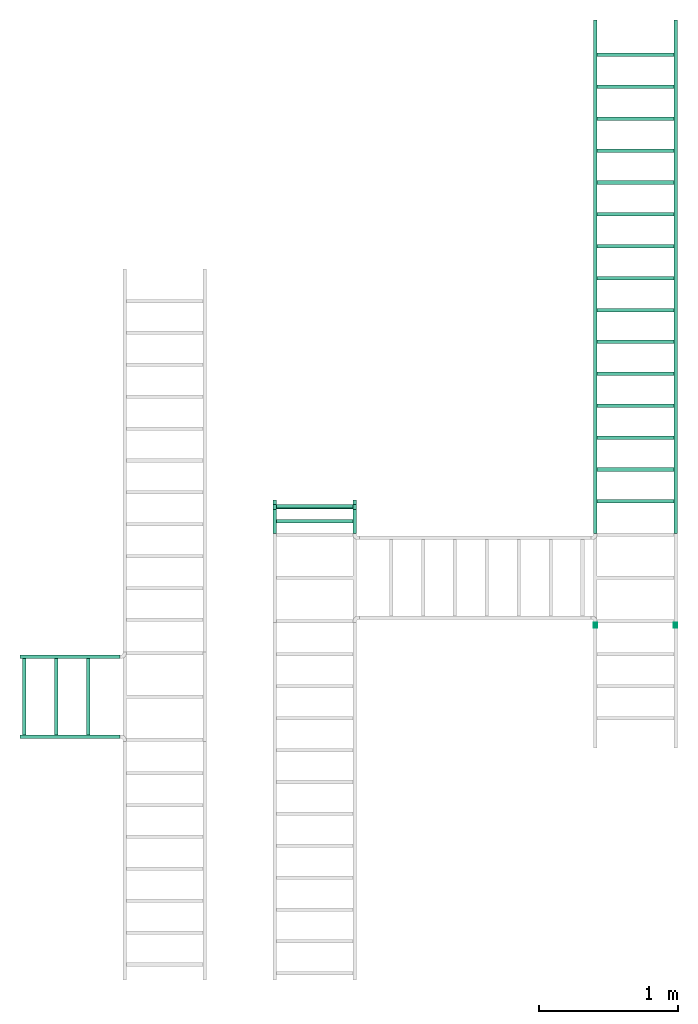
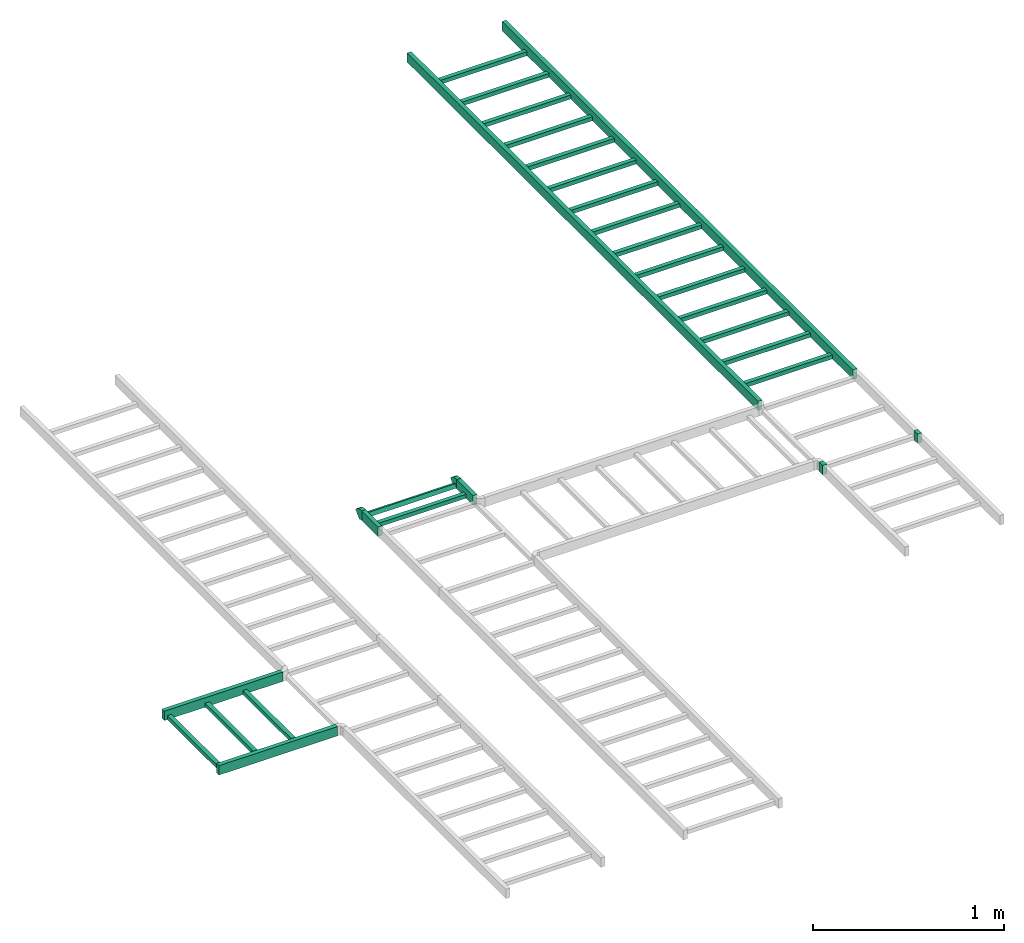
# One storey, part 3 of 3: 4 flow segments, 1 flow fitting.
"""IFC2X3 building model written with IfcOpenShell, lengths in millimetres."""

from ifc_helpers import new_model, entity, si_unit, converted_unit, derived_unit, direction, frame, origin_with_axes, place, context, subcontext, project, spatial, open_shell, faceted_brep, surface_model, source, transform, mapped, type_object, element, save


model = new_model("IFC2X3")

# Units and contexts
model_context = context("Model", 3, precision=0.01, world=frame((0.0, 4.29681676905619e-09, 0.0)), true_north=direction((4.01073788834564e-13, 1.0)))
plan_context = context("Plan", 3, precision=0.01, world=frame((0.0, 4.29681676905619e-09, 0.0)), true_north=direction((4.01073788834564e-13, 1.0)))
body_context = subcontext(model_context, "Body", "Model", "MODEL_VIEW")
ifc_project = project(units=[converted_unit("PLANEANGLEUNIT", "DEGREE", entity("IfcPositiveLengthMeasure", 0.0174532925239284), si_unit("PLANEANGLEUNIT", "RADIAN"), dimensions=[0, 0, 0, 0, 0, 0, 0]), si_unit("AREAUNIT", "SQUARE_METRE"), si_unit("LENGTHUNIT", "METRE", prefix="MILLI"), si_unit("MASSUNIT", "GRAM", prefix="KILO"), si_unit("POWERUNIT", "WATT"), si_unit("PRESSUREUNIT", "PASCAL", prefix="KILO"), si_unit("FORCEUNIT", "NEWTON", prefix="KILO"), si_unit("ELECTRICVOLTAGEUNIT", "VOLT"), si_unit("ELECTRICCURRENTUNIT", "AMPERE"), si_unit("THERMODYNAMICTEMPERATUREUNIT", "DEGREE_CELSIUS"), si_unit("TIMEUNIT", "SECOND"), si_unit("VOLUMEUNIT", "CUBIC_METRE"), derived_unit("LINEARVELOCITYUNIT", [(si_unit("LENGTHUNIT", "METRE"), 1), (si_unit("TIMEUNIT", "SECOND"), -1)]), derived_unit("VOLUMETRICFLOWRATEUNIT", [(si_unit("VOLUMEUNIT", "CUBIC_METRE"), 1), (si_unit("TIMEUNIT", "SECOND"), -1)]), derived_unit("THERMALTRANSMITTANCEUNIT", [(si_unit("POWERUNIT", "WATT"), 1), (si_unit("THERMODYNAMICTEMPERATUREUNIT", "KELVIN"), -1), (si_unit("AREAUNIT", "SQUARE_METRE"), -1)]), derived_unit("SOUNDPRESSUREUNIT", [(si_unit("PRESSUREUNIT", "PASCAL"), 1)])], contexts=[model_context, plan_context])

# Site, building, storey
site_placement = place(None, frame((0.0, -4.29681676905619e-09, 0.0), z_axis=(0.0, 0.0, 1.0), x_axis=(1.0, 0.0, 0.0)))
site = spatial("IfcSite", under=ifc_project, at=site_placement, Name="ENGM", CompositionType="ELEMENT")
building_placement = place(site_placement, frame((0.0, 4.29681676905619e-09, 0.0), z_axis=(0.0, 0.0, 1.0), x_axis=(1.0, 0.0, 0.0)))
building = spatial("IfcBuilding", under=site, at=building_placement, Name="TS", CompositionType="ELEMENT")
storey_placement = place(building_placement, frame((0.0, 0.0, 200300.0), z_axis=(0.0, 0.0, 1.0), x_axis=(1.0, 0.0, 0.0)))
storey = spatial("IfcBuildingStorey", under=building, at=storey_placement, Name="Nivå C", CompositionType="ELEMENT", Elevation=200300.0)

# Flow fitting
cable_carrier_fitting_type = type_object("IfcCableCarrierFittingType", Name="Standard 10mm", PredefinedType="BEND")
shared_shape_1 = source(origin_with_axes(), body_context, "Body", "SurfaceModel", [
    surface_model("IfcShellBasedSurfaceModel", [(-9.49747, 32.92893, 274.60001), (32.92893, -9.49747, 274.60001), (10.2193, -24.67157, 274.60001), (-12.74171, 30.7612, 274.60001), (10.2193, -24.67157, 300.0), (32.92893, -9.49747, 300.0), (-9.49747, 32.92893, 300.0), (-12.74171, 30.7612, 300.0), (-9.49747, 32.92893, -300.0), (32.92893, -9.49747, -300.0), (10.2193, -24.67157, -300.0), (-12.74171, 30.7612, -300.0), (10.2193, -24.67157, -274.60001), (32.92893, -9.49747, -274.60001), (-9.49747, 32.92893, -274.60001), (-12.74171, 30.7612, -274.60001), (-16.56854, 30.0, 274.60001), (-16.56854, 30.0, 300.0), (-16.56854, -30.0, 274.60001), (-3.17462, -27.33578, 300.0), (-16.56854, -30.0, 300.0), (-3.17462, -27.33578, 274.60001), (18.41816, -19.19326, 274.60001), (21.57411, -17.08452, 300.0), (-16.56854, 30.0, -274.60001), (-16.56854, 30.0, -300.0), (0.54808, -26.59529, -300.0), (-16.56854, -30.0, -300.0), (-3.17462, -27.33578, -274.60001), (-16.56854, -30.0, -274.60001), (21.57411, -17.08452, -274.60001), (21.57411, -17.08452, -300.0), (-1.00844, 35.62128, 274.60001), (8.71172, 12.15474, -274.60001), (-1.00844, 35.62128, -274.60001), (8.71172, 12.15474, 274.60001), (-14.75482, 2.43458, 274.60001), (-14.75482, 2.43458, -274.60001), (-24.47498, 25.90113, -274.60001), (-24.47498, 25.90113, 274.60001), (-26.56854, 30.0, 300.0), (-26.56854, 30.0, 274.60001), (-26.56854, -30.0, 274.60001), (-26.56854, -30.0, 300.0), (-26.56854, 30.0, -274.60001), (-26.56854, 30.0, -300.0), (-26.56854, -30.0, -300.0), (-26.56854, -30.0, -274.60001), (-2.42641, 40.0, 274.60001), (40.0, -2.42641, 274.60001), (-2.42641, 40.0, 300.0), (40.0, -2.42641, 300.0), (-2.42641, 40.0, -300.0), (40.0, -2.42641, -300.0), (-2.42641, 40.0, -274.60001), (40.0, -2.42641, -274.60001)], [open_shell([[[0, 1, 2]], [[0, 2, 3]], [[4, 5, 6]], [[4, 6, 7]], [[8, 9, 10]], [[8, 10, 11]], [[12, 13, 14]], [[12, 14, 15]], [[7, 16, 17]], [[3, 16, 7]], [[6, 0, 3]], [[7, 6, 3]], [[18, 19, 20]], [[21, 4, 19]], [[4, 21, 2]], [[4, 22, 23]], [[1, 5, 23]], [[22, 4, 2]], [[1, 23, 22]], [[18, 21, 19]], [[24, 11, 25]], [[15, 11, 24]], [[14, 8, 15]], [[11, 15, 8]], [[12, 26, 10]], [[27, 26, 28]], [[29, 27, 28]], [[26, 12, 28]], [[30, 12, 31]], [[9, 13, 30]], [[9, 30, 31]], [[12, 10, 31]], [[32, 33, 34]], [[33, 32, 35]], [[33, 35, 36]], [[36, 37, 33]], [[34, 33, 37]], [[37, 38, 34]], [[32, 34, 38]], [[38, 39, 32]], [[35, 32, 39]], [[39, 36, 35]], [[38, 37, 36]], [[36, 39, 38]], [[40, 41, 42]], [[42, 43, 40]], [[44, 45, 46]], [[46, 47, 44]], [[41, 40, 16]], [[17, 16, 40]], [[41, 18, 42]], [[18, 41, 16]], [[18, 16, 3]], [[3, 2, 18]], [[0, 48, 1]], [[1, 48, 49]], [[43, 42, 18]], [[18, 20, 43]], [[43, 20, 40]], [[17, 40, 20]], [[7, 17, 20]], [[20, 4, 7]], [[5, 50, 6]], [[50, 5, 51]], [[45, 44, 25]], [[24, 25, 44]], [[45, 27, 46]], [[27, 45, 25]], [[27, 25, 11]], [[11, 10, 27]], [[8, 52, 9]], [[9, 52, 53]], [[47, 46, 27]], [[27, 29, 47]], [[47, 29, 44]], [[24, 44, 29]], [[15, 24, 29]], [[29, 12, 15]], [[13, 54, 14]], [[54, 13, 55]], [[49, 48, 50]], [[50, 51, 49]], [[53, 52, 54]], [[54, 55, 53]], [[0, 6, 48]], [[50, 48, 6]], [[5, 1, 49]], [[49, 51, 5]], [[8, 14, 52]], [[54, 52, 14]], [[13, 9, 53]], [[53, 55, 13]]])]),
])
flow_fitting_placement = place(storey_placement, frame((597037.74959, 401862.88308, 2730.0), z_axis=(1.0, 0.0, 0.0), x_axis=(0.0, -0.707106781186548, 0.707106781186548)))
element("IfcFlowFitting", 1, at=flow_fitting_placement, inside=storey, type_object=cable_carrier_fitting_type, Name="Standard 10mm", context=body_context, shape_type="MappedRepresentation", body=[
    mapped(shared_shape_1, transform((0.0, 0.0, 0.0), scale=1.0)),
])

# Flow segments
cable_carrier_segment_type = type_object("IfcCableCarrierSegmentType", Name="Kabelbro", PredefinedType="CABLELADDERSEGMENT")
shared_shape_2 = source(origin_with_axes(), body_context, "Body", "SurfaceModel", [
    surface_model("IfcShellBasedSurfaceModel", [(0.0, -300.0, -30.0), (0.0, -300.0, 30.0), (0.0, -274.60001, 30.0), (0.0, -274.60001, -30.0), (0.0, 274.60001, -30.0), (0.0, 274.60001, 30.0), (0.0, 300.0, 30.0), (0.0, 300.0, -30.0), (215.89999, -274.60001, -30.0), (241.30001, -274.60001, -30.0), (241.30001, -274.60001, -4.6), (215.89999, -274.60001, -4.6), (241.30001, 274.60001, -4.6), (241.30001, 274.60001, -30.0), (215.89999, 274.60001, -30.0), (215.89999, 274.60001, -4.6), (444.50001, -274.60001, -30.0), (469.89999, -274.60001, -30.0), (469.89999, -274.60001, -4.6), (444.50001, -274.60001, -4.6), (469.89999, 274.60001, -4.6), (469.89999, 274.60001, -30.0), (444.50001, 274.60001, -30.0), (444.50001, 274.60001, -4.6), (673.09998, -274.60001, -30.0), (698.50002, -274.60001, -30.0), (698.50002, -274.60001, -4.6), (673.09998, -274.60001, -4.6), (698.50002, 274.60001, -4.6), (698.50002, 274.60001, -30.0), (673.09998, 274.60001, -30.0), (673.09998, 274.60001, -4.6), (901.69998, -274.60001, -30.0), (927.10002, -274.60001, -30.0), (927.10002, -274.60001, -4.6), (901.69998, -274.60001, -4.6), (927.10002, 274.60001, -4.6), (927.10002, 274.60001, -30.0), (901.69998, 274.60001, -30.0), (901.69998, 274.60001, -4.6), (1130.29998, -274.60001, -30.0), (1155.70002, -274.60001, -30.0), (1155.70002, -274.60001, -4.6), (1130.29998, -274.60001, -4.6), (1155.70002, 274.60001, -4.6), (1155.70002, 274.60001, -30.0), (1130.29998, 274.60001, -30.0), (1130.29998, 274.60001, -4.6), (1358.90005, -274.60001, -30.0), (1384.29995, -274.60001, -30.0), (1384.29995, -274.60001, -4.6), (1358.90005, -274.60001, -4.6), (1384.29995, 274.60001, -4.6), (1384.29995, 274.60001, -30.0), (1358.90005, 274.60001, -30.0), (1358.90005, 274.60001, -4.6), (1587.50005, -274.60001, -30.0), (1612.89995, -274.60001, -30.0), (1612.89995, -274.60001, -4.6), (1587.50005, -274.60001, -4.6), (1612.89995, 274.60001, -4.6), (1612.89995, 274.60001, -30.0), (1587.50005, 274.60001, -30.0), (1587.50005, 274.60001, -4.6), (1816.10005, -274.60001, -30.0), (1841.49995, -274.60001, -30.0), (1841.49995, -274.60001, -4.6), (1816.10005, -274.60001, -4.6), (1841.49995, 274.60001, -4.6), (1841.49995, 274.60001, -30.0), (1816.10005, 274.60001, -30.0), (1816.10005, 274.60001, -4.6), (2044.70005, -274.60001, -30.0), (2070.09995, -274.60001, -30.0), (2070.09995, -274.60001, -4.6), (2044.70005, -274.60001, -4.6), (2070.09995, 274.60001, -4.6), (2070.09995, 274.60001, -30.0), (2044.70005, 274.60001, -30.0), (2044.70005, 274.60001, -4.6), (2273.30005, -274.60001, -30.0), (2298.69995, -274.60001, -30.0), (2298.69995, -274.60001, -4.6), (2273.30005, -274.60001, -4.6), (2298.69995, 274.60001, -4.6), (2298.69995, 274.60001, -30.0), (2273.30005, 274.60001, -30.0), (2273.30005, 274.60001, -4.6), (2501.8999, -274.60001, -30.0), (2527.3001, -274.60001, -30.0), (2527.3001, -274.60001, -4.6), (2501.8999, -274.60001, -4.6), (2527.3001, 274.60001, -4.6), (2527.3001, 274.60001, -30.0), (2501.8999, 274.60001, -30.0), (2501.8999, 274.60001, -4.6), (2730.4999, -274.60001, -30.0), (2755.9001, -274.60001, -30.0), (2755.9001, -274.60001, -4.6), (2730.4999, -274.60001, -4.6), (2755.9001, 274.60001, -4.6), (2755.9001, 274.60001, -30.0), (2730.4999, 274.60001, -30.0), (2730.4999, 274.60001, -4.6), (2959.0999, -274.60001, -30.0), (2984.5001, -274.60001, -30.0), (2984.5001, -274.60001, -4.6), (2959.0999, -274.60001, -4.6), (2984.5001, 274.60001, -4.6), (2984.5001, 274.60001, -30.0), (2959.0999, 274.60001, -30.0), (2959.0999, 274.60001, -4.6), (3187.6999, -274.60001, -30.0), (3213.1001, -274.60001, -30.0), (3213.1001, -274.60001, -4.6), (3187.6999, -274.60001, -4.6), (3213.1001, 274.60001, -4.6), (3213.1001, 274.60001, -30.0), (3187.6999, 274.60001, -30.0), (3187.6999, 274.60001, -4.6), (3416.2999, -274.60001, -30.0), (3441.7001, -274.60001, -30.0), (3441.7001, -274.60001, -4.6), (3416.2999, -274.60001, -4.6), (3441.7001, 274.60001, -4.6), (3441.7001, 274.60001, -30.0), (3416.2999, 274.60001, -30.0), (3416.2999, 274.60001, -4.6), (3679.49459, -300.0, -30.0), (3679.49459, -274.60001, -30.0), (3679.49459, -274.60001, 30.0), (3679.49459, -300.0, 30.0), (3679.49459, 274.60001, -30.0), (3679.49459, 300.0, -30.0), (3679.49459, 300.0, 30.0), (3679.49459, 274.60001, 30.0)], [open_shell([[[0, 1, 2]], [[2, 3, 0]], [[4, 5, 6]], [[6, 7, 4]], [[8, 9, 10]], [[10, 11, 8]], [[12, 13, 14]], [[14, 15, 12]], [[10, 9, 12]], [[13, 12, 9]], [[11, 10, 15]], [[12, 15, 10]], [[8, 11, 14]], [[15, 14, 11]], [[9, 8, 13]], [[14, 13, 8]], [[16, 17, 18]], [[18, 19, 16]], [[20, 21, 22]], [[22, 23, 20]], [[18, 17, 20]], [[21, 20, 17]], [[19, 18, 23]], [[20, 23, 18]], [[16, 19, 22]], [[23, 22, 19]], [[17, 16, 21]], [[22, 21, 16]], [[24, 25, 26]], [[26, 27, 24]], [[28, 29, 30]], [[30, 31, 28]], [[26, 25, 28]], [[29, 28, 25]], [[27, 26, 31]], [[28, 31, 26]], [[24, 27, 30]], [[31, 30, 27]], [[25, 24, 29]], [[30, 29, 24]], [[32, 33, 34]], [[34, 35, 32]], [[36, 37, 38]], [[38, 39, 36]], [[34, 33, 36]], [[37, 36, 33]], [[35, 34, 39]], [[36, 39, 34]], [[32, 35, 38]], [[39, 38, 35]], [[33, 32, 37]], [[38, 37, 32]], [[40, 41, 42]], [[42, 43, 40]], [[44, 45, 46]], [[46, 47, 44]], [[42, 41, 44]], [[45, 44, 41]], [[43, 42, 47]], [[44, 47, 42]], [[40, 43, 46]], [[47, 46, 43]], [[41, 40, 45]], [[46, 45, 40]], [[48, 49, 50]], [[50, 51, 48]], [[52, 53, 54]], [[54, 55, 52]], [[50, 49, 52]], [[53, 52, 49]], [[51, 50, 55]], [[52, 55, 50]], [[48, 51, 54]], [[55, 54, 51]], [[49, 48, 53]], [[54, 53, 48]], [[56, 57, 58]], [[58, 59, 56]], [[60, 61, 62]], [[62, 63, 60]], [[58, 57, 60]], [[61, 60, 57]], [[59, 58, 63]], [[60, 63, 58]], [[56, 59, 62]], [[63, 62, 59]], [[57, 56, 61]], [[62, 61, 56]], [[64, 65, 66]], [[66, 67, 64]], [[68, 69, 70]], [[70, 71, 68]], [[66, 65, 68]], [[69, 68, 65]], [[67, 66, 71]], [[68, 71, 66]], [[64, 67, 70]], [[71, 70, 67]], [[65, 64, 69]], [[70, 69, 64]], [[72, 73, 74]], [[74, 75, 72]], [[76, 77, 78]], [[78, 79, 76]], [[74, 73, 76]], [[77, 76, 73]], [[75, 74, 79]], [[76, 79, 74]], [[72, 75, 78]], [[79, 78, 75]], [[73, 72, 77]], [[78, 77, 72]], [[80, 81, 82]], [[82, 83, 80]], [[84, 85, 86]], [[86, 87, 84]], [[82, 81, 84]], [[85, 84, 81]], [[83, 82, 87]], [[84, 87, 82]], [[80, 83, 86]], [[87, 86, 83]], [[81, 80, 85]], [[86, 85, 80]], [[88, 89, 90]], [[90, 91, 88]], [[92, 93, 94]], [[94, 95, 92]], [[90, 89, 92]], [[93, 92, 89]], [[91, 90, 95]], [[92, 95, 90]], [[88, 91, 94]], [[95, 94, 91]], [[89, 88, 93]], [[94, 93, 88]], [[96, 97, 98]], [[98, 99, 96]], [[100, 101, 102]], [[102, 103, 100]], [[98, 97, 100]], [[101, 100, 97]], [[99, 98, 103]], [[100, 103, 98]], [[96, 99, 102]], [[103, 102, 99]], [[97, 96, 101]], [[102, 101, 96]], [[104, 105, 106]], [[106, 107, 104]], [[108, 109, 110]], [[110, 111, 108]], [[106, 105, 108]], [[109, 108, 105]], [[107, 106, 111]], [[108, 111, 106]], [[104, 107, 110]], [[111, 110, 107]], [[105, 104, 109]], [[110, 109, 104]], [[112, 113, 114]], [[114, 115, 112]], [[116, 117, 118]], [[118, 119, 116]], [[114, 113, 116]], [[117, 116, 113]], [[115, 114, 119]], [[116, 119, 114]], [[112, 115, 118]], [[119, 118, 115]], [[113, 112, 117]], [[118, 117, 112]], [[120, 121, 122]], [[122, 123, 120]], [[124, 125, 126]], [[126, 127, 124]], [[122, 121, 124]], [[125, 124, 121]], [[123, 122, 127]], [[124, 127, 122]], [[120, 123, 126]], [[127, 126, 123]], [[121, 120, 125]], [[126, 125, 120]], [[128, 129, 130]], [[130, 131, 128]], [[132, 133, 134]], [[134, 135, 132]], [[1, 0, 128]], [[128, 131, 1]], [[2, 1, 130]], [[131, 130, 1]], [[3, 2, 130]], [[130, 129, 3]], [[0, 3, 128]], [[129, 128, 3]], [[7, 6, 134]], [[134, 133, 7]], [[4, 7, 132]], [[133, 132, 7]], [[5, 4, 132]], [[132, 135, 5]], [[6, 5, 134]], [[135, 134, 5]]])]),
])
flow_segment_1_placement = place(storey_placement, frame((599338.05418, 401665.46354, 2730.0), z_axis=(0.0, 0.0, 1.0), x_axis=(0.0, 1.0, 0.0)))
element("IfcFlowSegment", 2, at=flow_segment_1_placement, inside=storey, type_object=cable_carrier_segment_type, Name="Kabelbro", context=body_context, shape_type="MappedRepresentation", body=[
    mapped(shared_shape_2, transform((0.0, 0.0, 0.0), scale=1.0)),
])
shared_shape_3 = source(origin_with_axes(), body_context, "Body", "SurfaceModel", [
    surface_model("IfcShellBasedSurfaceModel", [(0.0, -300.0, -30.0), (0.0, -300.0, 30.0), (0.0, -274.60001, 30.0), (0.0, -274.60001, -30.0), (0.0, 274.60001, -30.0), (0.0, 274.60001, 30.0), (0.0, 300.0, 30.0), (0.0, 300.0, -30.0), (37.54784, -300.0, -30.0), (37.54784, -274.60001, -30.0), (37.54784, -274.60001, 30.0), (37.54784, -300.0, 30.0), (37.54784, 274.60001, -30.0), (37.54784, 300.0, -30.0), (37.54784, 300.0, 30.0), (37.54784, 274.60001, 30.0)], [open_shell([[[0, 1, 2]], [[2, 3, 0]], [[4, 5, 6]], [[6, 7, 4]], [[8, 9, 10]], [[10, 11, 8]], [[12, 13, 14]], [[14, 15, 12]], [[1, 0, 8]], [[8, 11, 1]], [[2, 1, 10]], [[11, 10, 1]], [[3, 2, 10]], [[10, 9, 3]], [[0, 3, 8]], [[9, 8, 3]], [[7, 6, 14]], [[14, 13, 7]], [[4, 7, 12]], [[13, 12, 7]], [[5, 4, 12]], [[12, 15, 5]], [[6, 5, 14]], [[15, 14, 5]]])]),
])
flow_segment_2_placement = place(storey_placement, frame((599338.05418, 400987.9157, 2730.0), z_axis=(0.0, 0.0, 1.0), x_axis=(0.0, 1.0, 0.0)))
element("IfcFlowSegment", 3, at=flow_segment_2_placement, inside=storey, type_object=cable_carrier_segment_type, Name="Kabelbro", context=body_context, shape_type="MappedRepresentation", body=[
    mapped(shared_shape_3, transform((0.0, 0.0, 0.0), scale=1.0)),
])
shared_shape_4 = source(origin_with_axes(), body_context, "Body", "SurfaceModel", [
    surface_model("IfcShellBasedSurfaceModel", [(0.0, -300.0, -30.0), (0.0, -300.0, 30.0), (0.0, -274.60001, 30.0), (0.0, -274.60001, -30.0), (0.0, 274.60001, -30.0), (0.0, 274.60001, 30.0), (0.0, 300.0, 30.0), (0.0, 300.0, -30.0), (170.851, -274.60001, 30.0), (170.851, -300.0, 30.0), (170.851, -300.0, -30.0), (170.851, -274.60001, -30.0), (170.851, 300.0, 30.0), (170.851, 274.60001, 30.0), (170.851, 274.60001, -30.0), (170.851, 300.0, -30.0), (72.7255, -274.60001, -30.0), (98.1255, -274.60001, -30.0), (98.1255, -274.60001, -4.6), (72.7255, -274.60001, -4.6), (98.1255, 274.60001, -4.6), (98.1255, 274.60001, -30.0), (72.7255, 274.60001, -30.0), (72.7255, 274.60001, -4.6)], [open_shell([[[0, 1, 2]], [[2, 3, 0]], [[4, 5, 6]], [[6, 7, 4]], [[8, 9, 10]], [[10, 11, 8]], [[12, 13, 14]], [[14, 15, 12]], [[1, 0, 9]], [[10, 9, 0]], [[2, 1, 8]], [[9, 8, 1]], [[3, 2, 11]], [[8, 11, 2]], [[0, 3, 10]], [[11, 10, 3]], [[7, 6, 15]], [[12, 15, 6]], [[4, 7, 14]], [[15, 14, 7]], [[5, 4, 13]], [[14, 13, 4]], [[6, 5, 12]], [[13, 12, 5]], [[16, 17, 18]], [[18, 19, 16]], [[20, 21, 22]], [[22, 23, 20]], [[18, 17, 20]], [[21, 20, 17]], [[19, 18, 23]], [[20, 23, 18]], [[16, 19, 22]], [[23, 22, 19]], [[17, 16, 21]], [[22, 21, 16]]])]),
])
flow_segment_3_placement = place(storey_placement, frame((597037.74959, 401836.31454, 2730.0), z_axis=(0.0, 0.0, 1.0), x_axis=(0.0, -1.0, 0.0)))
element("IfcFlowSegment", 4, at=flow_segment_3_placement, inside=storey, type_object=cable_carrier_segment_type, Name="Kabelbro", context=body_context, shape_type="MappedRepresentation", body=[
    mapped(shared_shape_4, transform((0.0, 0.0, 0.0), scale=1.0)),
])
flow_segment_4_placement = place(storey_placement, frame((595642.86926, 400494.07572, 2730.0), z_axis=(0.0, 0.0, 1.0), x_axis=(-1.0, 0.0, 0.0)))
element("IfcFlowSegment", 5, at=flow_segment_4_placement, inside=storey, type_object=cable_carrier_segment_type, Name="Kabelbro", context=body_context, shape_type="Brep", body=[
    faceted_brep([(241.30001, 274.60001, -4.6), (241.30001, -274.60001, -30.0), (241.30001, -274.60001, -4.6), (241.30001, 274.60001, -30.0), (215.89999, 274.60001, -4.6), (215.89999, -274.60001, -4.6), (215.89999, 274.60001, -30.0), (215.89999, -274.60001, -30.0), (469.89999, 274.60001, -4.6), (469.89999, -274.60001, -30.0), (469.89999, -274.60001, -4.6), (469.89999, 274.60001, -30.0), (444.50001, 274.60001, -4.6), (444.50001, -274.60001, -4.6), (444.50001, 274.60001, -30.0), (444.50001, -274.60001, -30.0), (698.50002, 274.60001, -4.6), (698.50002, -274.60001, -30.0), (698.50002, -274.60001, -4.6), (698.50002, 274.60001, -30.0), (673.09998, 274.60001, -4.6), (673.09998, -274.60001, -4.6), (673.09998, 274.60001, -30.0), (673.09998, -274.60001, -30.0), (0.0, -300.0, 30.0), (0.0, -300.0, -30.0), (0.0, -274.60001, -30.0), (0.0, -274.60001, 30.0), (0.0, 274.60001, 30.0), (0.0, 274.60001, -30.0), (0.0, 300.0, -30.0), (0.0, 300.0, 30.0), (717.369259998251, -300.0, 6.57397870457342), (717.369259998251, -300.0, -30.0), (717.369259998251, -300.0, 30.0), (717.369259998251, -274.60001, 30.0), (717.369259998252, -290.082988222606, 30.0), (717.369259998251, -274.60001, -6.57397870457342), (717.369259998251, -274.60001, -30.0), (717.369259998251, -284.517021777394, -30.0), (717.369259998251, 300.0, -6.57397870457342), (717.369259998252, 300.0, 30.0), (717.369259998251, 300.0, -30.0), (717.369259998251, 274.600010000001, -30.0), (717.369259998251, 290.082988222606, -30.0), (717.369259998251, 274.60001, 6.57397870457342), (717.369259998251, 274.60001, 30.0), (717.369259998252, 284.517021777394, 30.0)], [[[0, 1, 2]], [[1, 0, 3]], [[4, 2, 5]], [[2, 4, 0]], [[6, 5, 7]], [[5, 6, 4]], [[3, 7, 1]], [[7, 3, 6]], [[8, 9, 10]], [[9, 8, 11]], [[12, 10, 13]], [[10, 12, 8]], [[14, 13, 15]], [[13, 14, 12]], [[11, 15, 9]], [[15, 11, 14]], [[16, 17, 18]], [[17, 16, 19]], [[20, 18, 21]], [[18, 20, 16]], [[22, 21, 23]], [[21, 22, 20]], [[19, 23, 17]], [[23, 19, 22]], [[24, 25, 26]], [[26, 27, 24]], [[28, 29, 30]], [[30, 31, 28]], [[5, 2, 1]], [[1, 7, 5]], [[3, 0, 4]], [[4, 6, 3]], [[13, 10, 9]], [[9, 15, 13]], [[11, 8, 12]], [[12, 14, 11]], [[21, 18, 17]], [[17, 23, 21]], [[19, 16, 20]], [[20, 22, 19]], [[32, 33, 25, 24]], [[34, 32, 24]], [[35, 36, 24, 27]], [[36, 34, 24]], [[37, 35, 27, 26]], [[38, 37, 26]], [[33, 39, 26, 25]], [[39, 38, 26]], [[40, 41, 31, 30]], [[42, 40, 30]], [[43, 44, 30, 29]], [[44, 42, 30]], [[45, 43, 29, 28]], [[46, 45, 28]], [[41, 47, 28, 31]], [[47, 46, 28]], [[33, 34, 35, 38]], [[43, 46, 41, 42]]], orient=[[False], [False], [False], [False], [False], [False], [False], [False], [False], [False], [False], [False], [False], [False], [False], [False], [False], [False], [False], [False], [False], [False], [False], [False], [False], [False], [False], [False], [False], [False], [False], [False], [False], [False], [False], [False], [False], [False], [False], [False], [False], [False], [False], [False], [False], [False], [False], [False], [False], [False], [False], [False], [False], [False], [False], [False], [False], [False]]),
])

save(model, "model.ifc")
